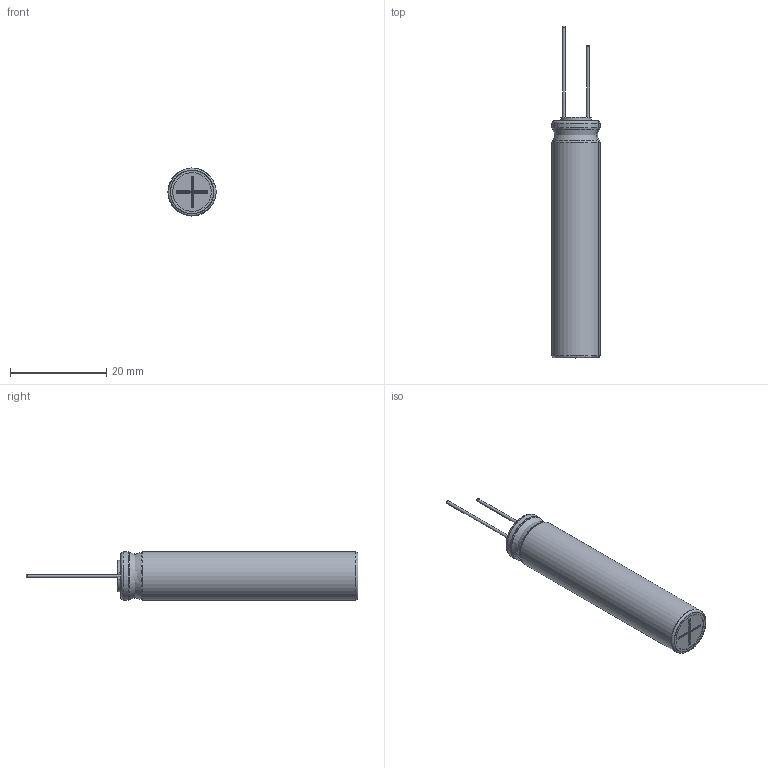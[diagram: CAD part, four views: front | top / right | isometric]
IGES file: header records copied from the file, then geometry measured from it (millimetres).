
Start section: JAMA-IS VERSION  1.0
Bounding box: 9.99 x 69 x 10 mm (x, y, z)
Surface area: 4916.5 mm2 (no closed solid volume)
Topology: 0 solids, 0 shells, 115 faces, 1315 edges, 1296 vertices
Faces by surface type: bspline 115
